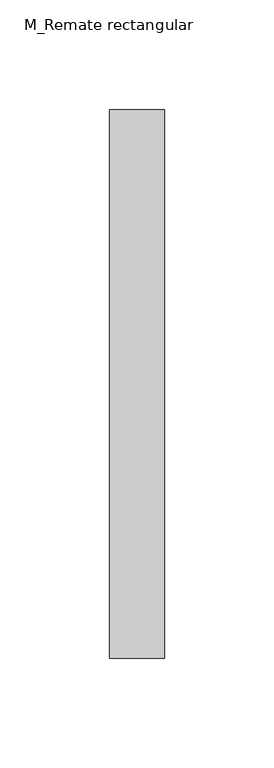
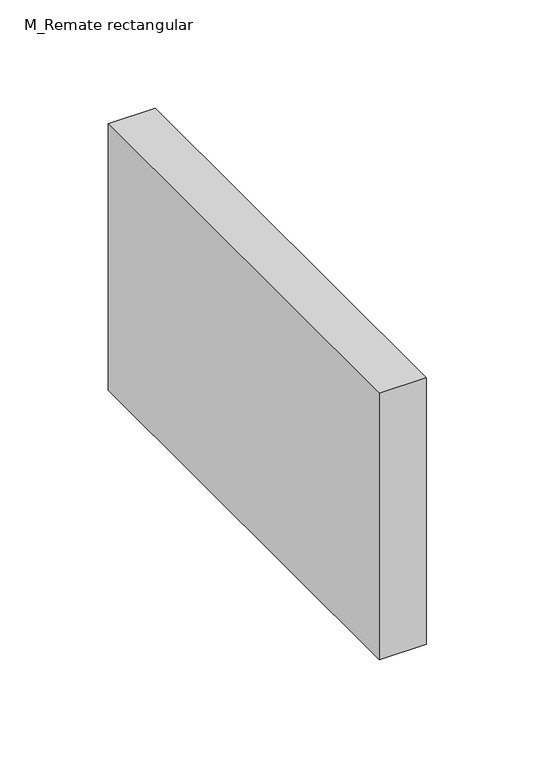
"""IFC4 building model written with IfcOpenShell, lengths in millimetres: duct fitting geometry, M_Remate rectangular : Estándar."""

import ifcopenshell
import ifcopenshell.guid

model = None  # the IFC model being written
_history = None  # IfcOwnerHistory: only IFC2X3 demands one
_inside = {}  # id of a spatial element -> (the spatial element, [elements in it])
_under = {}  # id of a project, library or spatial element -> (it, [spatial elements below it])
_declared = {}  # id of a project -> (the project, [libraries it declares])
_typed = {}  # id of a type object -> (the type object, [elements of that type])
_made_of = {}  # id of a material, layer set ... -> (it, [elements and type objects made of it])


def new_model(schema):
    """Start an empty IFC model of exactly this schema.

    Asked for "IFC4X3", IfcOpenShell would pick the latest addendum, in which some entities
    have other attributes; the version numbers below select the first issue.
    IFC2X3 requires an IfcOwnerHistory on every rooted entity: one is made here for all.
    """
    global model, _history
    if schema == "IFC4X3":
        model = ifcopenshell.file(schema_version=(4, 3, 0, 0))
    else:
        model = ifcopenshell.file(schema=schema)
    _inside.clear()
    _under.clear()
    _declared.clear()
    _typed.clear()
    _made_of.clear()
    _history = None
    if model.schema == "IFC2X3":
        org = make("IfcOrganization", Name="unknown")
        user = make(
            "IfcPersonAndOrganization",
            ThePerson=make("IfcPerson", FamilyName="unknown"),
            TheOrganization=org,
        )
        app = make(
            "IfcApplication",
            ApplicationDeveloper=org,
            Version="unknown",
            ApplicationFullName="unknown",
            ApplicationIdentifier="unknown",
        )
        _history = make(
            "IfcOwnerHistory",
            OwningUser=user,
            OwningApplication=app,
            ChangeAction="ADDED",
            CreationDate=0,
        )
    return model


def make(cls, **values):
    """One entity of the class cls with the attributes given. An attribute that is None is left unset."""
    return model.create_entity(
        cls, **{name: value for name, value in values.items() if value is not None}
    )


def rooted(cls, **values):
    """An entity with a GlobalId (a new one), such as an element, a storey or a relation."""
    return make(cls, GlobalId=ifcopenshell.guid.new(), OwnerHistory=_history, **values)


def si_unit(unit_type, name, prefix=None):
    """IfcSIUnit, for example si_unit("LENGTHUNIT", "METRE", prefix="MILLI")."""
    return make("IfcSIUnit", UnitType=unit_type, Prefix=prefix, Name=name)


def assignment(units):
    """IfcUnitAssignment: the units of a project."""
    return None if units is None else make("IfcUnitAssignment", Units=units)


def point(xyz):
    """IfcCartesianPoint."""
    return None if xyz is None else make("IfcCartesianPoint", Coordinates=xyz)


def direction(xyz):
    """IfcDirection."""
    return None if xyz is None else make("IfcDirection", DirectionRatios=xyz)


def frame(location, z_axis=None, x_axis=None):
    """IfcAxis2Placement3D, a coordinate frame: its origin and axes. An axis left out is left unset."""
    return make(
        "IfcAxis2Placement3D",
        Location=point(location),
        Axis=direction(z_axis),
        RefDirection=direction(x_axis),
    )


def origin():
    """The frame at (0, 0, 0) with its axes left unset."""
    return frame((0.0, 0.0, 0.0))


def place(relative_to, where):
    """IfcLocalPlacement: puts the frame where relative to a parent placement (None: the world)."""
    return make(
        "IfcLocalPlacement", PlacementRelTo=relative_to, RelativePlacement=where
    )


def context(
    kind, dimensions, precision=None, world=None, true_north=None, identifier=None
):
    """IfcGeometricRepresentationContext, for example the 3D "Model" context."""
    return make(
        "IfcGeometricRepresentationContext",
        ContextIdentifier=identifier,
        ContextType=kind,
        CoordinateSpaceDimension=dimensions,
        Precision=precision,
        WorldCoordinateSystem=world,
        TrueNorth=true_north,
    )


def project(units=None, contexts=None):
    """IfcProject with its units and contexts."""
    return rooted(
        "IfcProject",
        Name="project",
        RepresentationContexts=contexts,
        UnitsInContext=assignment(units),
    )


def spatial(cls, under=None, at=None, **own):
    """A site, building, storey or space (cls), placed at a placement, below another one or the project."""
    s = rooted(cls, ObjectPlacement=at, **own)
    if under is not None:
        _under.setdefault(under.id(), (under, []))[1].append(s)
    return s


def polyline(points):
    """IfcPolyline through the points."""
    return make("IfcPolyline", Points=[point(p) for p in points])


def outline(outer, holes=None, kind="AREA"):
    """IfcArbitraryClosedProfileDef: a profile drawn as a closed curve; with holes, ...WithVoids."""
    if holes is None:
        return make("IfcArbitraryClosedProfileDef", ProfileType=kind, OuterCurve=outer)
    return make(
        "IfcArbitraryProfileDefWithVoids",
        ProfileType=kind,
        OuterCurve=outer,
        InnerCurves=holes,
    )


def extrude(swept, where, along, depth):
    """IfcExtrudedAreaSolid: the profile swept, set in the frame where, extruded along a direction by depth."""
    return make(
        "IfcExtrudedAreaSolid",
        SweptArea=swept,
        Position=where,
        ExtrudedDirection=direction(along),
        Depth=depth,
    )


def shape(context_of_items, identifier, shape_type, items):
    """IfcShapeRepresentation: the items that make up one representation, for example the "Body"."""
    return make(
        "IfcShapeRepresentation",
        ContextOfItems=context_of_items,
        RepresentationIdentifier=identifier,
        RepresentationType=shape_type,
        Items=items,
    )


def source(mapping_origin, context_of_items, identifier, shape_type, items):
    """IfcRepresentationMap: a shape defined once, which mapped items show again and again."""
    return make(
        "IfcRepresentationMap",
        MappingOrigin=mapping_origin,
        MappedRepresentation=shape(context_of_items, identifier, shape_type, items),
    )


def transform(
    local_origin,
    x_axis=None,
    y_axis=None,
    z_axis=None,
    scale=None,
    scale2=None,
    scale3=None,
    uniform=True,
):
    """IfcCartesianTransformationOperator3D, or its non-uniform kind. x_axis, y_axis, z_axis: its Axis1, 2, 3."""
    if uniform:
        return make(
            "IfcCartesianTransformationOperator3D",
            Axis1=direction(x_axis),
            Axis2=direction(y_axis),
            LocalOrigin=point(local_origin),
            Scale=scale,
            Axis3=direction(z_axis),
        )
    return make(
        "IfcCartesianTransformationOperator3DnonUniform",
        Axis1=direction(x_axis),
        Axis2=direction(y_axis),
        LocalOrigin=point(local_origin),
        Scale=scale,
        Axis3=direction(z_axis),
        Scale2=scale2,
        Scale3=scale3,
    )


def mapped(mapping_source, mapping_target):
    """IfcMappedItem: shows the shape of a source again, moved by a transform."""
    return make(
        "IfcMappedItem", MappingSource=mapping_source, MappingTarget=mapping_target
    )


def made_of(thing, what):
    """Note that an element or type object is made of a material, layer set ...; save() writes the relation."""
    if what is not None:
        _made_of.setdefault(what.id(), (what, []))[1].append(thing)
    return thing


def element(
    cls,
    number,
    at=None,
    inside=None,
    cuts=None,
    type_object=None,
    material=None,
    context=None,
    identifier="Body",
    shape_type=None,
    held_by="IfcProductDefinitionShape",
    body=None,
    shapes=None,
    **own,
):
    """One element of the class cls, such as IfcWall. Its Tag is "e" and its number.

    at: its placement. inside: the storey or other place that contains it. cuts: it is an
    opening in that element (IfcRelVoidsElement). A single representation is given by context,
    identifier, shape_type and body (its items); several are given by shapes. held_by: the class
    of the entity that holds the representations. save() writes the other relations.
    """
    e = rooted(cls, Tag="e%d" % number, ObjectPlacement=at, **own)
    if body is not None:
        shapes = [shape(context, identifier, shape_type, body)]
    if shapes is not None:
        e.Representation = make(held_by, Representations=shapes)
    if inside is not None:
        _inside.setdefault(inside.id(), (inside, []))[1].append(e)
    if cuts is not None:
        rooted(
            "IfcRelVoidsElement", RelatingBuildingElement=cuts, RelatedOpeningElement=e
        )
    if type_object is not None:
        _typed.setdefault(type_object.id(), (type_object, []))[1].append(e)
    return made_of(e, material)


def aggregate(whole, parts):
    """IfcRelAggregates: a whole, such as a stair, and the parts it consists of."""
    return rooted("IfcRelAggregates", RelatingObject=whole, RelatedObjects=parts)


def save(model, path):
    """Write the relations noted so far, then the file.

    IfcRelAggregates (storeys below a building ...), IfcRelContainedInSpatialStructure (elements
    in a storey), IfcRelDefinesByType, IfcRelAssociatesMaterial and IfcRelDeclares: one each for
    every whole, place, type object, material and project.
    """
    for whole, parts in _under.values():
        aggregate(whole, parts)
    for where, things in _inside.values():
        rooted(
            "IfcRelContainedInSpatialStructure",
            RelatedElements=things,
            RelatingStructure=where,
        )
    for kind, things in _typed.values():
        rooted("IfcRelDefinesByType", RelatedObjects=things, RelatingType=kind)
    for what, things in _made_of.values():
        rooted("IfcRelAssociatesMaterial", RelatedObjects=things, RelatingMaterial=what)
    for by, libraries in _declared.values():
        rooted("IfcRelDeclares", RelatingContext=by, RelatedDefinitions=libraries)
    model.write(path)


def m_remate_rectangular_058c6ff3(model_context):
    return source(origin(), model_context, "Body", "SweptSolid", [
        extrude(outline(polyline([(0.0, -125.0), (0.0, 125.0), (25.0, 125.0), (25.0, -125.0), (0.0, -125.0)])), frame((0.0, 0.0, -75.0), z_axis=(0.0, 0.0, 1.0), x_axis=(1.0, 0.0, 0.0)), (0.0, 0.0, 1.0), 150.0),
    ])


if __name__ == "__main__":
    model = new_model("IFC4")
    model_context = context("Model", 3, world=origin())
    ifc_project = project(units=[si_unit("LENGTHUNIT", "METRE", prefix="MILLI")], contexts=[model_context])
    site = spatial("IfcSite", under=ifc_project)
    building = spatial("IfcBuilding", under=site)
    placement = place(None, origin())
    m_remate_rectangular_shape = m_remate_rectangular_058c6ff3(model_context)
    element("IfcDuctFitting", 1, ObjectType="M_Remate rectangular : Estándar", at=placement, inside=building, context=model_context, shape_type="MappedRepresentation", body=[
        mapped(m_remate_rectangular_shape, transform((0.0, 0.0, 0.0), x_axis=(1.0, 0.0, 0.0), y_axis=(0.0, 1.0, 0.0), z_axis=(0.0, 0.0, 1.0))),
    ])
    save(model, "model.ifc")
